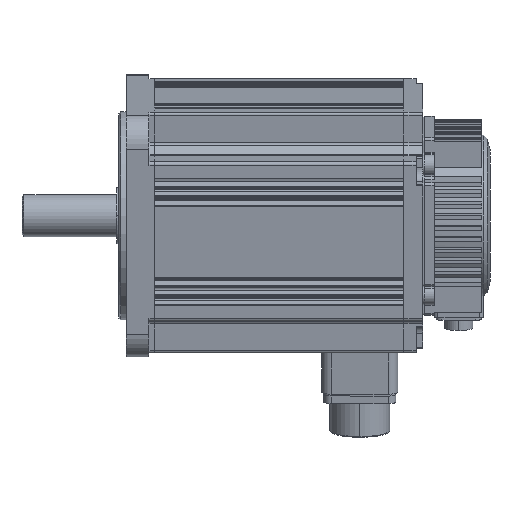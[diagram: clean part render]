
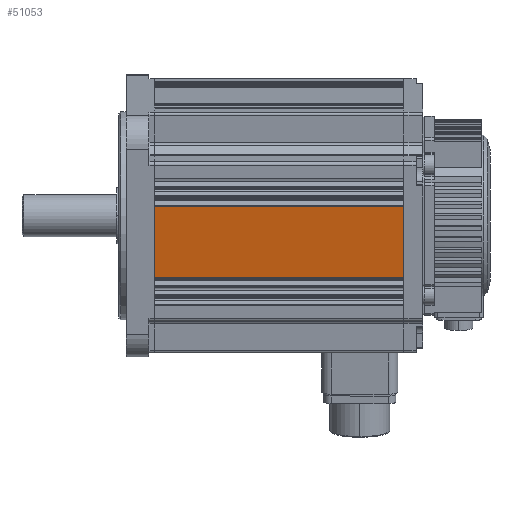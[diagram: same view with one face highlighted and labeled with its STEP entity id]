
A CAD part, front view. The second image highlights one B-rep face of the part: STEP entity #51053.
In plain terms, the highlighted planar face has unit normal (0, -0.977, -0.212).
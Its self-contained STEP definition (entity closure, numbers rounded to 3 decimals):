
#156 = LINE ( 'NONE', #21449, #29135 ) ;
#883 = EDGE_CURVE ( 'NONE', #14749, #32224, #15447, .T. ) ;
#1150 = EDGE_LOOP ( 'NONE', ( #13590, #39191, #4283, #28771 ) ) ;
#1976 = CARTESIAN_POINT ( 'NONE',  ( 90.427, -49.139, 5.101 ) ) ;
#2060 = VECTOR ( 'NONE', #22614, 1000. ) ;
#3785 = EDGE_CURVE ( 'NONE', #12401, #14749, #36302, .T. ) ;
#4283 = ORIENTED_EDGE ( 'NONE', *, *, #883, .F. ) ;
#7362 = VECTOR ( 'NONE', #30548, 1000. ) ;
#8800 = FACE_OUTER_BOUND ( 'NONE', #1150, .T. ) ;
#9367 = DIRECTION ( 'NONE',  ( 1., 0., 0. ) ) ;
#9940 = LINE ( 'NONE', #10060, #7362 ) ;
#10060 = CARTESIAN_POINT ( 'NONE',  ( 90.427, -49.139, 5.101 ) ) ;
#12401 = VERTEX_POINT ( 'NONE', #44066 ) ;
#13590 = ORIENTED_EDGE ( 'NONE', *, *, #52498, .F. ) ;
#14749 = VERTEX_POINT ( 'NONE', #32240 ) ;
#15447 = LINE ( 'NONE', #34467, #47783 ) ;
#20595 = AXIS2_PLACEMENT_3D ( 'NONE', #1976, #43390, #35666 ) ;
#21449 = CARTESIAN_POINT ( 'NONE',  ( 24.677, -40.96, -32.637 ) ) ;
#22614 = DIRECTION ( 'NONE',  ( 0., -0.212, 0.977 ) ) ;
#27233 = CARTESIAN_POINT ( 'NONE',  ( -41.073, -31.282, -77.293 ) ) ;
#28771 = ORIENTED_EDGE ( 'NONE', *, *, #3785, .F. ) ;
#29093 = EDGE_CURVE ( 'NONE', #47551, #32224, #9940, .T. ) ;
#29135 = VECTOR ( 'NONE', #34221, 1000. ) ;
#30548 = DIRECTION ( 'NONE',  ( 0., -0.212, 0.977 ) ) ;
#32224 = VERTEX_POINT ( 'NONE', #40586 ) ;
#32240 = CARTESIAN_POINT ( 'NONE',  ( -41.073, -49.139, 5.101 ) ) ;
#34221 = DIRECTION ( 'NONE',  ( -1., 0., 0. ) ) ;
#34467 = CARTESIAN_POINT ( 'NONE',  ( 24.677, -49.139, 5.101 ) ) ;
#35666 = DIRECTION ( 'NONE',  ( 0., 0.212, -0.977 ) ) ;
#36302 = LINE ( 'NONE', #27233, #2060 ) ;
#39191 = ORIENTED_EDGE ( 'NONE', *, *, #29093, .T. ) ;
#40586 = CARTESIAN_POINT ( 'NONE',  ( 90.427, -49.139, 5.101 ) ) ;
#43390 = DIRECTION ( 'NONE',  ( 0., 0.977, 0.212 ) ) ;
#44066 = CARTESIAN_POINT ( 'NONE',  ( -41.073, -40.96, -32.637 ) ) ;
#45522 = CARTESIAN_POINT ( 'NONE',  ( 90.427, -40.96, -32.637 ) ) ;
#47551 = VERTEX_POINT ( 'NONE', #45522 ) ;
#47655 = PLANE ( 'NONE',  #20595 ) ;
#47783 = VECTOR ( 'NONE', #9367, 1000. ) ;
#51053 = ADVANCED_FACE ( 'NONE', ( #8800 ), #47655, .F. ) ;
#52498 = EDGE_CURVE ( 'NONE', #47551, #12401, #156, .T. ) ;
